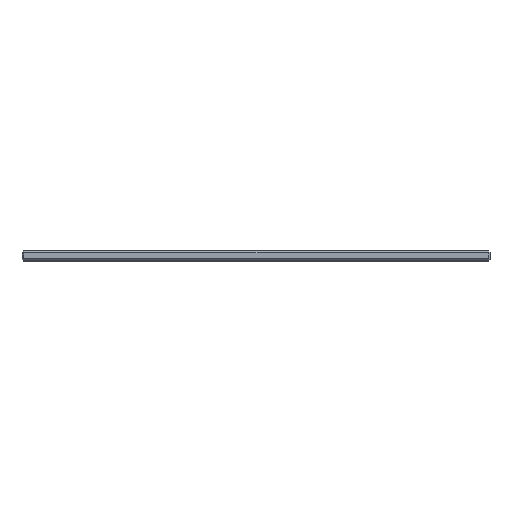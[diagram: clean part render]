
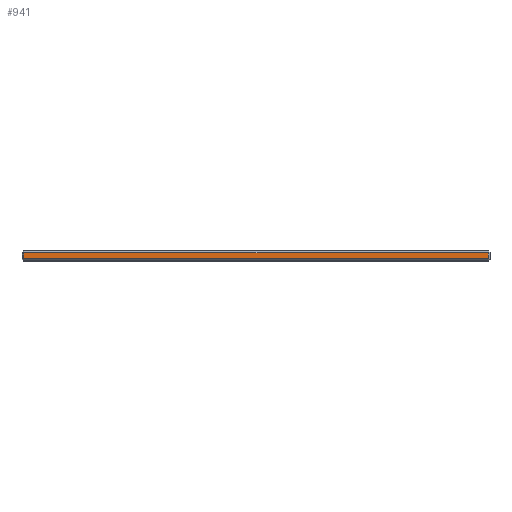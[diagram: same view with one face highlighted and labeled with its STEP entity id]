
A CAD part, top view. The second image highlights one B-rep face of the part: STEP entity #941.
In plain terms, the highlighted planar face has unit normal (0, 0, 1).
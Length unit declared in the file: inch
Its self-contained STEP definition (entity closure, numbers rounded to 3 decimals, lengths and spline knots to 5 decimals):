
#9 = EDGE_LOOP ( 'NONE', ( #1261, #1237, #602, #319 ) ) ;
#17 = CARTESIAN_POINT ( 'NONE',  ( -5.9375, 0.05, 5.375 ) ) ;
#66 = EDGE_CURVE ( 'NONE', #1312, #1245, #1214, .T. ) ;
#68 = VERTEX_POINT ( 'NONE', #1392 ) ;
#154 = VERTEX_POINT ( 'NONE', #306 ) ;
#306 = CARTESIAN_POINT ( 'NONE',  ( 5.8875, 0.05, 5.375 ) ) ;
#319 = ORIENTED_EDGE ( 'NONE', *, *, #66, .T. ) ;
#337 = LINE ( 'NONE', #17, #1388 ) ;
#377 = DIRECTION ( 'NONE',  ( 0., 1., 0. ) ) ;
#378 = CARTESIAN_POINT ( 'NONE',  ( -5.8875, 0.05, 5.375 ) ) ;
#391 = LINE ( 'NONE', #420, #1440 ) ;
#420 = CARTESIAN_POINT ( 'NONE',  ( -5.9375, 0.2, 5.375 ) ) ;
#434 = EDGE_CURVE ( 'NONE', #154, #68, #865, .T. ) ;
#437 = CARTESIAN_POINT ( 'NONE',  ( -5.8875, 0.25, 5.375 ) ) ;
#602 = ORIENTED_EDGE ( 'NONE', *, *, #1483, .T. ) ;
#657 = CARTESIAN_POINT ( 'NONE',  ( 5.8875, 0.25, 5.375 ) ) ;
#691 = CARTESIAN_POINT ( 'NONE',  ( -5.9375, 0.25, 5.375 ) ) ;
#712 = DIRECTION ( 'NONE',  ( 0., -1., 0. ) ) ;
#844 = DIRECTION ( 'NONE',  ( -1., 0., 0. ) ) ;
#865 = LINE ( 'NONE', #657, #1469 ) ;
#936 = DIRECTION ( 'NONE',  ( 1., 0., 0. ) ) ;
#941 = ADVANCED_FACE ( 'NONE', ( #1063 ), #1640, .F. ) ;
#967 = EDGE_CURVE ( 'NONE', #1245, #154, #337, .T. ) ;
#1063 = FACE_OUTER_BOUND ( 'NONE', #9, .T. ) ;
#1150 = AXIS2_PLACEMENT_3D ( 'NONE', #691, #1360, #1504 ) ;
#1214 = LINE ( 'NONE', #437, #1347 ) ;
#1237 = ORIENTED_EDGE ( 'NONE', *, *, #434, .T. ) ;
#1245 = VERTEX_POINT ( 'NONE', #378 ) ;
#1261 = ORIENTED_EDGE ( 'NONE', *, *, #967, .T. ) ;
#1312 = VERTEX_POINT ( 'NONE', #1457 ) ;
#1347 = VECTOR ( 'NONE', #712, 39.37008 ) ;
#1360 = DIRECTION ( 'NONE',  ( 0., 0., -1. ) ) ;
#1388 = VECTOR ( 'NONE', #936, 39.37008 ) ;
#1392 = CARTESIAN_POINT ( 'NONE',  ( 5.8875, 0.2, 5.375 ) ) ;
#1440 = VECTOR ( 'NONE', #844, 39.37008 ) ;
#1457 = CARTESIAN_POINT ( 'NONE',  ( -5.8875, 0.2, 5.375 ) ) ;
#1469 = VECTOR ( 'NONE', #377, 39.37008 ) ;
#1483 = EDGE_CURVE ( 'NONE', #68, #1312, #391, .T. ) ;
#1504 = DIRECTION ( 'NONE',  ( -1., 0., 0. ) ) ;
#1640 = PLANE ( 'NONE',  #1150 ) ;
